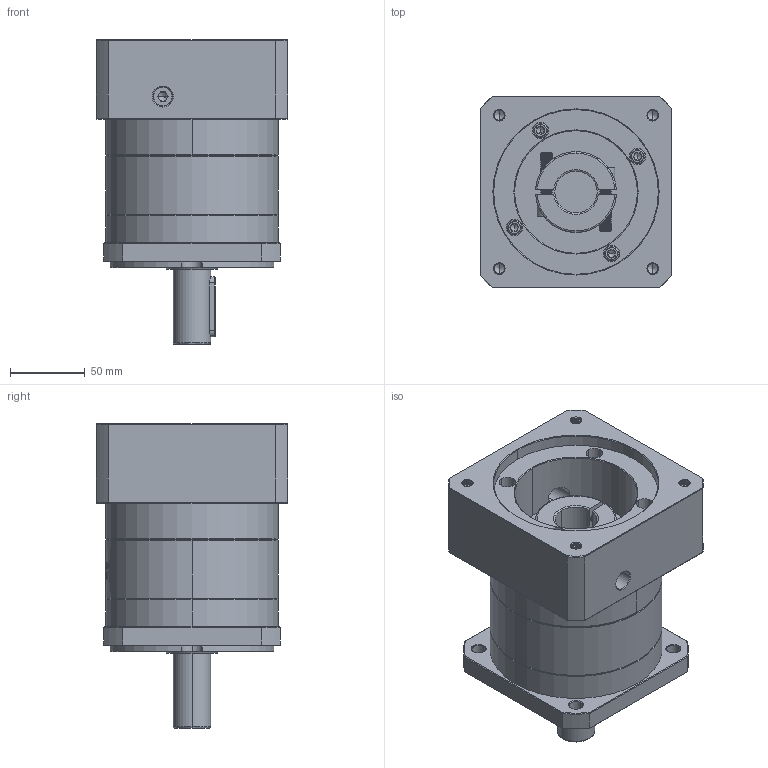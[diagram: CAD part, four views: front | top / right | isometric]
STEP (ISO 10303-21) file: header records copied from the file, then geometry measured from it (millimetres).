
FILE_DESCRIPTION (( 'STEP AP214' ), '1' );
FILE_NAME ('ZF120A-D25-L1-P2-28-110-145-M8.step', '2023-08-27T04:39:36', ( '' ), ( '' ), 'SwSTEP 2.0', 'SolidWorks 2016', '' );
FILE_SCHEMA (( 'AUTOMOTIVE_DESIGN' ));
Length unit declared in the file: millimetre
Products named in the file (1): ZF120A-D25-L1-P2-28-110-145-M8
Bounding box: 128 x 128 x 203.5 mm (x, y, z)
Volume: 1656492.8 mm3; surface area: 180182.6 mm2
Topology: 6 solids, 6 shells, 2214 faces, 5867 edges, 3757 vertices
Faces by surface type: plane 1033, cylinder 420, bspline 419, cone 322, torus 20
Entity records: 122216 total; most frequent: CARTESIAN_POINT 48372, ORIENTED_EDGE 11674, DIRECTION 8444, EDGE_CURVE 5837, VERTEX_POINT 3757, LINE 3088, VECTOR 3088, AXIS2_PLACEMENT_3D 2678
